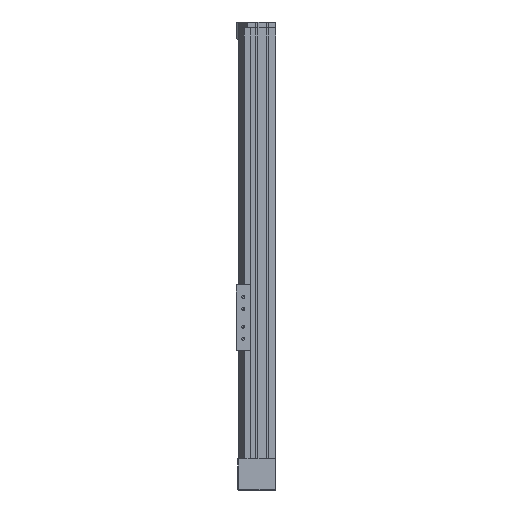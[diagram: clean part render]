
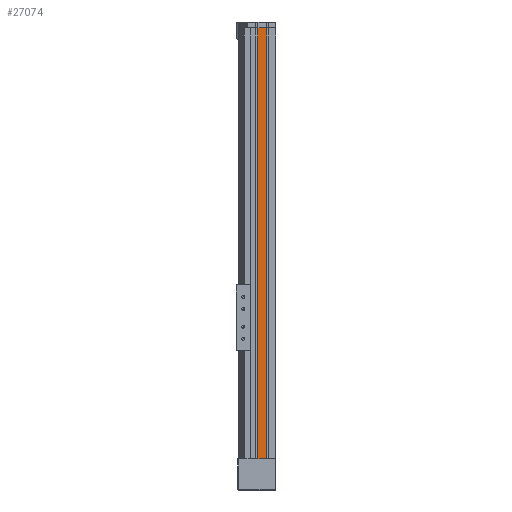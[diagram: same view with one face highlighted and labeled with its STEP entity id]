
A CAD part, left-side view. The second image highlights one B-rep face of the part: STEP entity #27074.
In plain terms, the highlighted planar face has unit normal (-1, 0, 0).
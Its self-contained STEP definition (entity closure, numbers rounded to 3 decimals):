
#6464 = DIRECTION ( 'NONE',  ( 0., 0., 1. ) ) ;
#6465 = VECTOR ( 'NONE', #6464, 1000. ) ;
#6474 = CARTESIAN_POINT ( 'NONE',  ( 0., 30., 0. ) ) ;
#6475 = LINE ( 'NONE', #6474, #6465 ) ;
#6487 = DIRECTION ( 'NONE',  ( 0., 0., 1. ) ) ;
#6488 = VECTOR ( 'NONE', #6487, 1000. ) ;
#6489 = DIRECTION ( 'NONE',  ( 0., 0., -1. ) ) ;
#6491 = CARTESIAN_POINT ( 'NONE',  ( 0., 15.5, 0. ) ) ;
#6492 = LINE ( 'NONE', #6491, #6488 ) ;
#6496 = PLANE ( 'NONE',  #6504 ) ;
#6501 = DIRECTION ( 'NONE',  ( 1., 0., 0. ) ) ;
#6504 = AXIS2_PLACEMENT_3D ( 'NONE', #6506, #6501, #6489 ) ;
#6506 = CARTESIAN_POINT ( 'NONE',  ( 0., 0., 720. ) ) ;
#6507 = FACE_OUTER_BOUND ( 'NONE', #27072, .T. ) ;
#7195 = CARTESIAN_POINT ( 'NONE',  ( 0., 15.5, 0. ) ) ;
#7227 = DIRECTION ( 'NONE',  ( 0., -1., 0. ) ) ;
#7228 = VECTOR ( 'NONE', #7227, 1000. ) ;
#7229 = CARTESIAN_POINT ( 'NONE',  ( 0., 0., 0. ) ) ;
#7230 = LINE ( 'NONE', #7229, #7228 ) ;
#7247 = CARTESIAN_POINT ( 'NONE',  ( 0., 30., 0. ) ) ;
#21722 = CARTESIAN_POINT ( 'NONE',  ( 0., 30., 720. ) ) ;
#21737 = CARTESIAN_POINT ( 'NONE',  ( 0., 15.5, 720. ) ) ;
#21748 = DIRECTION ( 'NONE',  ( 0., -1., 0. ) ) ;
#21749 = VECTOR ( 'NONE', #21748, 1000. ) ;
#21750 = CARTESIAN_POINT ( 'NONE',  ( 0., 0., 720. ) ) ;
#21751 = LINE ( 'NONE', #21750, #21749 ) ;
#27056 = EDGE_CURVE ( 'NONE', #27417, #38480, #6475, .T. ) ;
#27061 = ORIENTED_EDGE ( 'NONE', *, *, #27075, .T. ) ;
#27065 = ORIENTED_EDGE ( 'NONE', *, *, #38503, .F. ) ;
#27067 = ORIENTED_EDGE ( 'NONE', *, *, #27428, .T. ) ;
#27072 = EDGE_LOOP ( 'NONE', ( #27065, #27077, #27067, #27061 ) ) ;
#27074 = ADVANCED_FACE ( 'NONE', ( #6507 ), #6496, .F. ) ;
#27075 = EDGE_CURVE ( 'NONE', #27423, #38489, #6492, .T. ) ;
#27077 = ORIENTED_EDGE ( 'NONE', *, *, #27056, .F. ) ;
#27417 = VERTEX_POINT ( 'NONE', #7247 ) ;
#27423 = VERTEX_POINT ( 'NONE', #7195 ) ;
#27428 = EDGE_CURVE ( 'NONE', #27417, #27423, #7230, .T. ) ;
#38480 = VERTEX_POINT ( 'NONE', #21722 ) ;
#38489 = VERTEX_POINT ( 'NONE', #21737 ) ;
#38503 = EDGE_CURVE ( 'NONE', #38480, #38489, #21751, .T. ) ;
